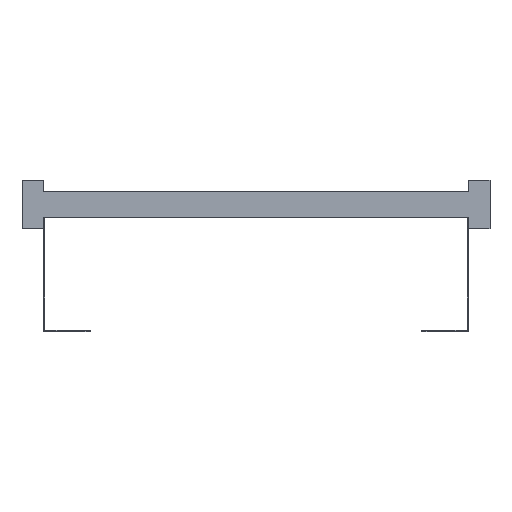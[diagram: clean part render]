
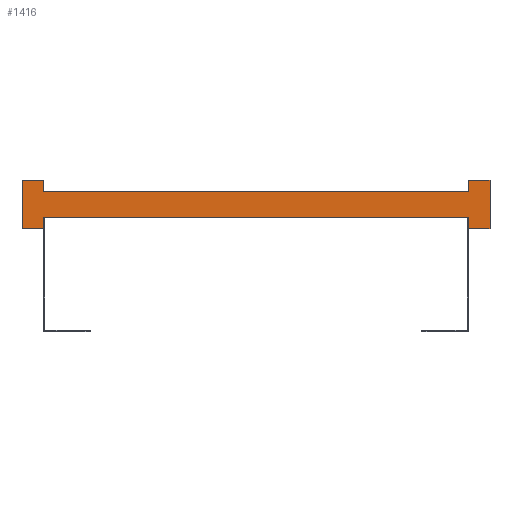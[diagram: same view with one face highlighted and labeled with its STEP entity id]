
A CAD part, front view. The second image highlights one B-rep face of the part: STEP entity #1416.
In plain terms, the highlighted planar face has unit normal (0, -1, 0).
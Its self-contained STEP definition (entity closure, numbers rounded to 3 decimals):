
#113=DIRECTION('',(0.,0.,1.));
#114=VECTOR('',#113,13.5);
#115=CARTESIAN_POINT('',(250.,0.,-28.5));
#116=LINE('',#115,#114);
#117=DIRECTION('',(0.,0.,-1.));
#118=VECTOR('',#117,13.5);
#119=CARTESIAN_POINT('',(-250.,0.,-15.));
#120=LINE('',#119,#118);
#121=DIRECTION('',(-1.,0.,0.));
#122=VECTOR('',#121,25.);
#123=CARTESIAN_POINT('',(-250.,0.,-28.5));
#124=LINE('',#123,#122);
#125=DIRECTION('',(0.,0.,1.));
#126=VECTOR('',#125,57.);
#127=CARTESIAN_POINT('',(-275.,0.,-28.5));
#128=LINE('',#127,#126);
#129=DIRECTION('',(1.,0.,0.));
#130=VECTOR('',#129,25.);
#131=CARTESIAN_POINT('',(-275.,0.,28.5));
#132=LINE('',#131,#130);
#133=DIRECTION('',(0.,0.,-1.));
#134=VECTOR('',#133,13.5);
#135=CARTESIAN_POINT('',(-250.,0.,28.5));
#136=LINE('',#135,#134);
#137=DIRECTION('',(0.,0.,1.));
#138=VECTOR('',#137,13.5);
#139=CARTESIAN_POINT('',(250.,0.,15.));
#140=LINE('',#139,#138);
#141=DIRECTION('',(1.,0.,0.));
#142=VECTOR('',#141,25.);
#143=CARTESIAN_POINT('',(250.,0.,28.5));
#144=LINE('',#143,#142);
#145=DIRECTION('',(0.,0.,-1.));
#146=VECTOR('',#145,57.);
#147=CARTESIAN_POINT('',(275.,0.,28.5));
#148=LINE('',#147,#146);
#149=DIRECTION('',(-1.,0.,0.));
#150=VECTOR('',#149,25.);
#151=CARTESIAN_POINT('',(275.,0.,-28.5));
#152=LINE('',#151,#150);
#1057=DIRECTION('',(1.,0.,0.));
#1058=VECTOR('',#1057,500.);
#1059=CARTESIAN_POINT('',(-250.,0.,-15.));
#1060=LINE('',#1059,#1058);
#1069=DIRECTION('',(1.,0.,0.));
#1070=VECTOR('',#1069,500.);
#1071=CARTESIAN_POINT('',(-250.,0.,15.));
#1072=LINE('',#1071,#1070);
#1073=CARTESIAN_POINT('',(-275.,0.,28.5));
#1074=CARTESIAN_POINT('',(-250.,0.,28.5));
#1075=VERTEX_POINT('',#1073);
#1076=VERTEX_POINT('',#1074);
#1077=CARTESIAN_POINT('',(-250.,0.,-28.5));
#1078=CARTESIAN_POINT('',(-275.,0.,-28.5));
#1079=VERTEX_POINT('',#1077);
#1080=VERTEX_POINT('',#1078);
#1081=CARTESIAN_POINT('',(275.,0.,28.5));
#1082=CARTESIAN_POINT('',(275.,0.,-28.5));
#1083=VERTEX_POINT('',#1081);
#1084=VERTEX_POINT('',#1082);
#1085=CARTESIAN_POINT('',(250.,0.,-28.5));
#1086=VERTEX_POINT('',#1085);
#1087=CARTESIAN_POINT('',(250.,0.,28.5));
#1088=VERTEX_POINT('',#1087);
#1105=CARTESIAN_POINT('',(-250.,0.,-15.));
#1107=VERTEX_POINT('',#1105);
#1109=CARTESIAN_POINT('',(-250.,0.,15.));
#1111=VERTEX_POINT('',#1109);
#1113=CARTESIAN_POINT('',(250.,0.,-15.));
#1115=VERTEX_POINT('',#1113);
#1117=CARTESIAN_POINT('',(250.,0.,15.));
#1119=VERTEX_POINT('',#1117);
#1385=CARTESIAN_POINT('',(0.,0.,0.));
#1386=DIRECTION('',(0.,1.,0.));
#1387=DIRECTION('',(1.,0.,0.));
#1388=AXIS2_PLACEMENT_3D('',#1385,#1386,#1387);
#1389=PLANE('',#1388);
#1391=ORIENTED_EDGE('',*,*,#1390,.T.);
#1393=ORIENTED_EDGE('',*,*,#1392,.F.);
#1395=ORIENTED_EDGE('',*,*,#1394,.T.);
#1397=ORIENTED_EDGE('',*,*,#1396,.T.);
#1399=ORIENTED_EDGE('',*,*,#1398,.T.);
#1401=ORIENTED_EDGE('',*,*,#1400,.T.);
#1403=ORIENTED_EDGE('',*,*,#1402,.T.);
#1405=ORIENTED_EDGE('',*,*,#1404,.T.);
#1407=ORIENTED_EDGE('',*,*,#1406,.T.);
#1409=ORIENTED_EDGE('',*,*,#1408,.T.);
#1411=ORIENTED_EDGE('',*,*,#1410,.T.);
#1413=ORIENTED_EDGE('',*,*,#1412,.T.);
#1414=EDGE_LOOP('',(#1391,#1393,#1395,#1397,#1399,#1401,#1403,#1405,#1407,#1409,
#1411,#1413));
#1415=FACE_OUTER_BOUND('',#1414,.F.);
#1390=EDGE_CURVE('',#1086,#1115,#116,.T.);
#1392=EDGE_CURVE('',#1107,#1115,#1060,.T.);
#1394=EDGE_CURVE('',#1107,#1079,#120,.T.);
#1396=EDGE_CURVE('',#1079,#1080,#124,.T.);
#1398=EDGE_CURVE('',#1080,#1075,#128,.T.);
#1400=EDGE_CURVE('',#1075,#1076,#132,.T.);
#1402=EDGE_CURVE('',#1076,#1111,#136,.T.);
#1404=EDGE_CURVE('',#1111,#1119,#1072,.T.);
#1406=EDGE_CURVE('',#1119,#1088,#140,.T.);
#1408=EDGE_CURVE('',#1088,#1083,#144,.T.);
#1410=EDGE_CURVE('',#1083,#1084,#148,.T.);
#1412=EDGE_CURVE('',#1084,#1086,#152,.T.);
#1416=ADVANCED_FACE('',(#1415),#1389,.F.);
